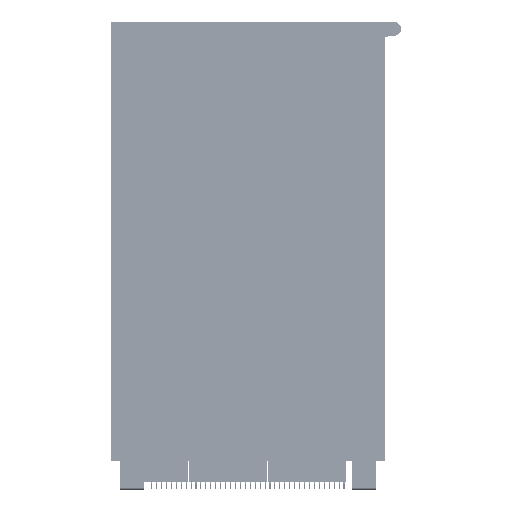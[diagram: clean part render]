
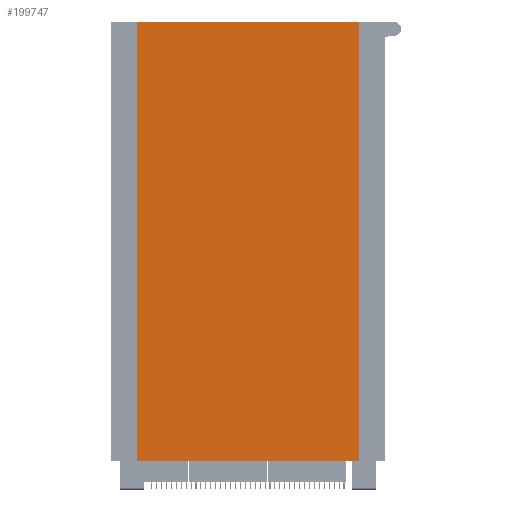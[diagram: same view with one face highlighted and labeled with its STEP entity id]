
A CAD part, front view. The second image highlights one B-rep face of the part: STEP entity #199747.
In plain terms, the highlighted planar face has unit normal (0, -1, 0).
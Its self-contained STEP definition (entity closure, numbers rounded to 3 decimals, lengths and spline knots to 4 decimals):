
#35916 = VERTEX_POINT ( 'NONE', #190778 ) ;
#55046 = VECTOR ( 'NONE', #123026, 39.3701 ) ;
#74931 = AXIS2_PLACEMENT_3D ( 'NONE', #505428, #221993, #619605 ) ;
#107589 = PLANE ( 'NONE',  #74931 ) ;
#118861 = CARTESIAN_POINT ( 'NONE',  ( 1.5985, -0.755, 0. ) ) ;
#123026 = DIRECTION ( 'NONE',  ( -1., 0., 0. ) ) ;
#155962 = CARTESIAN_POINT ( 'NONE',  ( 1.5985, -0.755, -6.2992 ) ) ;
#161789 = EDGE_CURVE ( 'NONE', #565531, #181607, #198526, .T. ) ;
#166049 = ORIENTED_EDGE ( 'NONE', *, *, #161789, .F. ) ;
#181607 = VERTEX_POINT ( 'NONE', #206117 ) ;
#190778 = CARTESIAN_POINT ( 'NONE',  ( -1.5985, -0.755, 0. ) ) ;
#198526 = LINE ( 'NONE', #540376, #349950 ) ;
#199747 = ADVANCED_FACE ( 'NONE', ( #206487 ), #107589, .F. ) ;
#199848 = DIRECTION ( 'NONE',  ( -1., 0., 0. ) ) ;
#206117 = CARTESIAN_POINT ( 'NONE',  ( -1.5985, -0.755, -6.2992 ) ) ;
#206151 = LINE ( 'NONE', #687286, #55046 ) ;
#206487 = FACE_OUTER_BOUND ( 'NONE', #571957, .T. ) ;
#209160 = EDGE_CURVE ( 'NONE', #565531, #682833, #347653, .T. ) ;
#213093 = DIRECTION ( 'NONE',  ( 0., 0., 1. ) ) ;
#215826 = LINE ( 'NONE', #317750, #292128 ) ;
#221993 = DIRECTION ( 'NONE',  ( 0., 1., 0. ) ) ;
#292128 = VECTOR ( 'NONE', #715284, 39.3701 ) ;
#317750 = CARTESIAN_POINT ( 'NONE',  ( -1.5985, -0.755, -6.2992 ) ) ;
#317911 = ORIENTED_EDGE ( 'NONE', *, *, #420525, .F. ) ;
#347653 = LINE ( 'NONE', #155962, #614176 ) ;
#349950 = VECTOR ( 'NONE', #199848, 39.3701 ) ;
#376291 = EDGE_CURVE ( 'NONE', #682833, #35916, #206151, .T. ) ;
#420525 = EDGE_CURVE ( 'NONE', #181607, #35916, #215826, .T. ) ;
#505428 = CARTESIAN_POINT ( 'NONE',  ( 0., -0.755, -6.2992 ) ) ;
#540376 = CARTESIAN_POINT ( 'NONE',  ( 0., -0.755, -6.2992 ) ) ;
#560805 = ORIENTED_EDGE ( 'NONE', *, *, #209160, .T. ) ;
#565531 = VERTEX_POINT ( 'NONE', #649656 ) ;
#571957 = EDGE_LOOP ( 'NONE', ( #602407, #317911, #166049, #560805 ) ) ;
#602407 = ORIENTED_EDGE ( 'NONE', *, *, #376291, .T. ) ;
#614176 = VECTOR ( 'NONE', #213093, 39.3701 ) ;
#619605 = DIRECTION ( 'NONE',  ( -1., 0., 0. ) ) ;
#649656 = CARTESIAN_POINT ( 'NONE',  ( 1.5985, -0.755, -6.2992 ) ) ;
#682833 = VERTEX_POINT ( 'NONE', #118861 ) ;
#687286 = CARTESIAN_POINT ( 'NONE',  ( 0., -0.755, 0. ) ) ;
#715284 = DIRECTION ( 'NONE',  ( 0., 0., 1. ) ) ;
